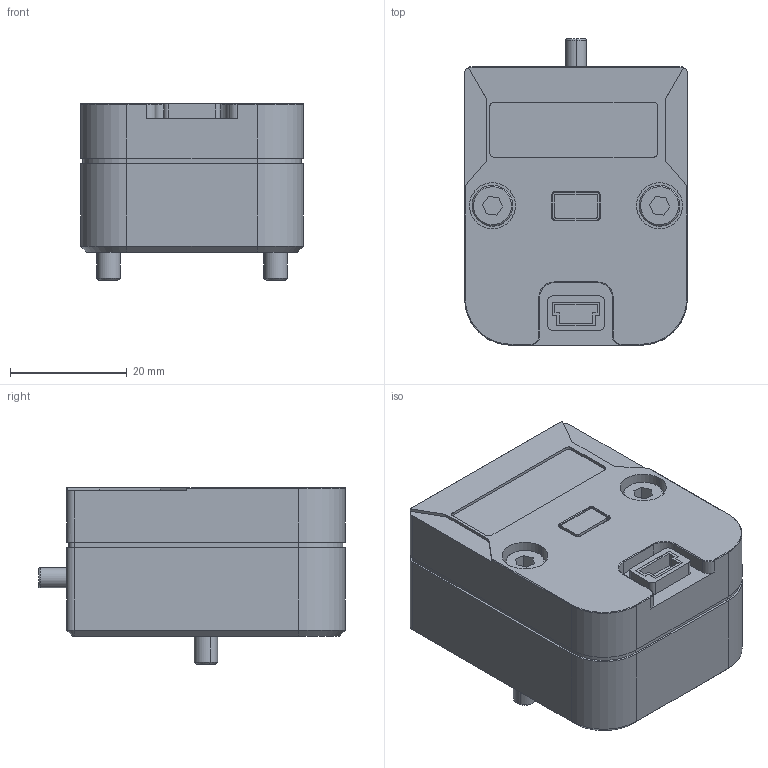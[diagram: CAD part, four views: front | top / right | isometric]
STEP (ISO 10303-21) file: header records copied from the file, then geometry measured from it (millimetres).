
FILE_DESCRIPTION (( 'STEP AP203' ), '1' );
FILE_NAME ('CVE-M_METRIC.step', '2014-05-28T16:21:51', ( '' ), ( '' ), 'SwSTEP 2.0', 'SolidWorks 2012', '' );
FILE_SCHEMA (( 'CONFIG_CONTROL_DESIGN' ));
Length unit declared in the file: millimetre
Products named in the file (3): CVE-M_METRIC; SHCS_M4 X 25MM; CVE-BODY_METRIC
Assembly tree (3 placements, depth 2):
  CVE-M_METRIC
    CVE-BODY_METRIC
    SHCS_M4 X 25MM  x2
Bounding box: 38.1 x 52.4 x 30.21 mm (x, y, z)
Volume: 44407.2 mm3; surface area: 10021.4 mm2
Topology: 3 solids, 3 shells, 190 faces, 464 edges, 296 vertices
Faces by surface type: plane 102, cylinder 62, torus 14, cone 12
Entity records: 5456 total; most frequent: DIRECTION 918, CARTESIAN_POINT 915, ORIENTED_EDGE 852, EDGE_CURVE 426, AXIS2_PLACEMENT_3D 318, VECTOR 282, LINE 282, VERTEX_POINT 272
